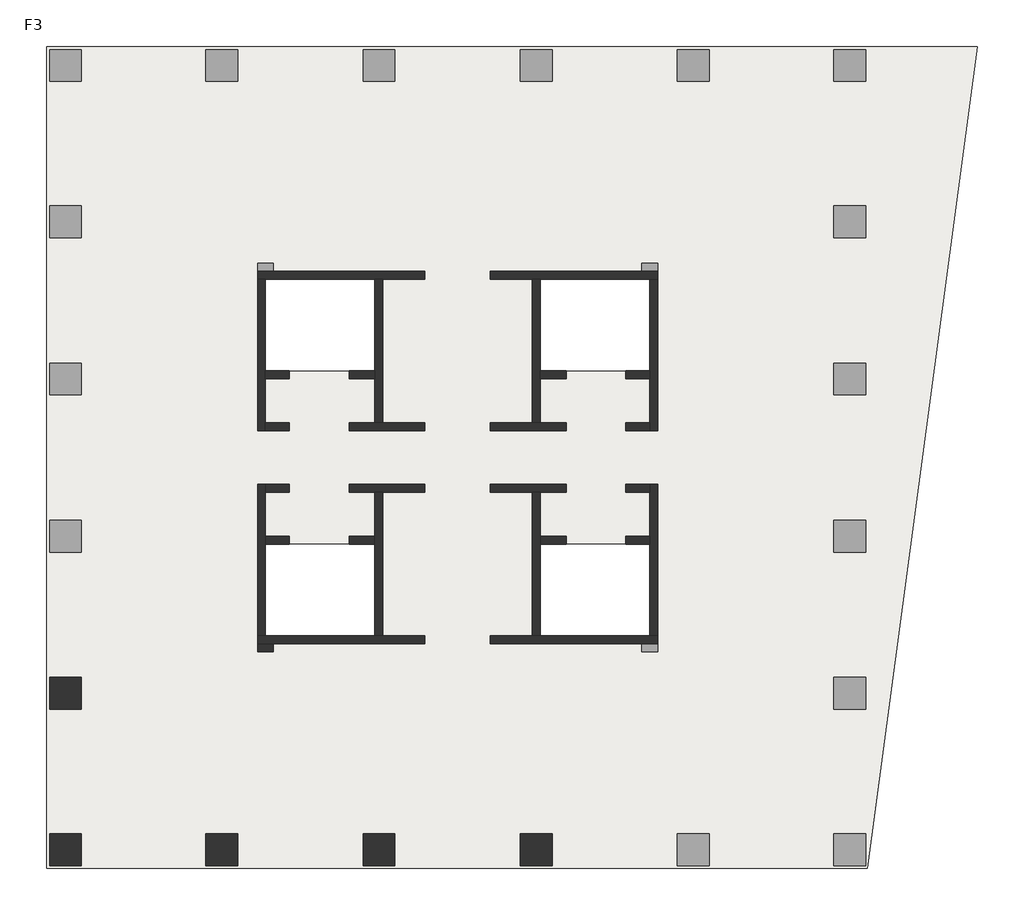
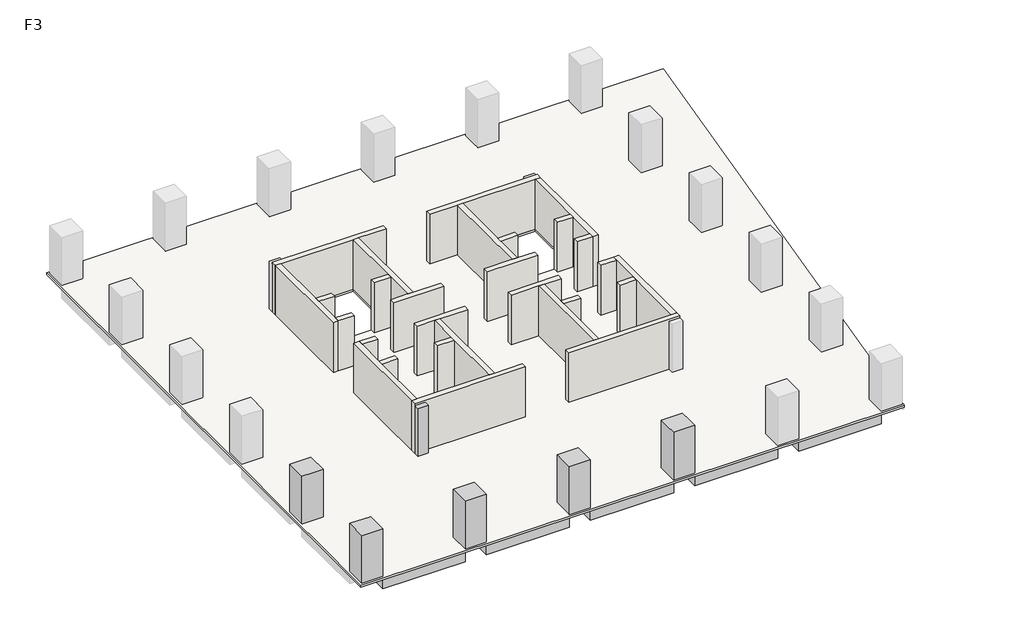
# One storey, part 1 of 2: 28 walls, 6 columns, 5 beams, 1 slab.
"""IFC4 building model written with IfcOpenShell, lengths in millimetres."""

from ifc_helpers import new_model, si_unit, frame, origin, place, context, project, spatial, polyline, outline, extrude, faceted_brep, element, save

model = new_model("IFC4")

# Units and contexts
model_context = context("Model", 3, world=origin())
ifc_project = project(units=[si_unit("LENGTHUNIT", "METRE", prefix="MILLI")], contexts=[model_context])

# Site, building, storey
site = spatial("IfcSite", under=ifc_project)
building = spatial("IfcBuilding", under=site)
storey = spatial("IfcBuildingStorey", under=building, Name="F3", Elevation=12000.0)

# Beams
placement = place(None, origin())
element("IfcBeam", 1, ObjectType="混凝土 - 矩形梁 : KL(5)-800x1000", at=placement, inside=storey, context=model_context, shape_type="SweptSolid", body=[
    extrude(outline(polyline([(-12472.6742169, -13948.9501342), (-12472.6742169, -13148.9501342), (-6222.6742169, -13148.9501342), (-6222.6742169, -13948.9501342), (-12472.6742169, -13948.9501342)])), frame((0.0, 0.0, 11000.0), z_axis=(0.0, 0.0, 1.0), x_axis=(1.0, 0.0, 0.0)), (0.0, 0.0, 1.0), 840.0),
    extrude(outline(polyline([(25327.3257831, -13148.9501342), (25327.3257831, -13948.9501342), (19077.3257831, -13948.9501342), (19077.3257831, -13148.9501342), (25327.3257831, -13148.9501342)])), frame((0.0, 0.0, 11000.0), z_axis=(0.0, 0.0, 1.0), x_axis=(1.0, 0.0, 0.0)), (0.0, 0.0, 1.0), 840.0),
    extrude(outline(polyline([(-4622.6742169, -13948.9501342), (-4622.6742169, -13148.9501342), (1677.3257831, -13148.9501342), (1677.3257831, -13948.9501342), (-4622.6742169, -13948.9501342)])), frame((0.0, 0.0, 11000.0), z_axis=(0.0, 0.0, 1.0), x_axis=(1.0, 0.0, 0.0)), (0.0, 0.0, 1.0), 840.0),
    extrude(outline(polyline([(3277.3257831, -13948.9501342), (3277.3257831, -13148.9501342), (9577.3257831, -13148.9501342), (9577.3257831, -13948.9501342), (3277.3257831, -13948.9501342)])), frame((0.0, 0.0, 11000.0), z_axis=(0.0, 0.0, 1.0), x_axis=(1.0, 0.0, 0.0)), (0.0, 0.0, 1.0), 840.0),
    extrude(outline(polyline([(11177.3257831, -13948.9501342), (11177.3257831, -13148.9501342), (17477.3257831, -13148.9501342), (17477.3257831, -13948.9501342), (11177.3257831, -13948.9501342)])), frame((0.0, 0.0, 11000.0), z_axis=(0.0, 0.0, 1.0), x_axis=(1.0, 0.0, 0.0)), (0.0, 0.0, 1.0), 840.0),
])
element("IfcBeam", 2, ObjectType="混凝土 - 矩形梁 : L1-800x500", at=placement, inside=storey, context=model_context, shape_type="Brep", body=[
    faceted_brep([(-12472.6742169, -5512.1353397, 11500.0), (-3746.9473979, -3341.556529, 11500.0), (-3173.6696907, -3198.9501342, 11500.0), (-3173.6696907, -3198.9501342, 11840.0), (-3746.9473979, -3341.556529, 11840.0), (-12472.6742169, -5512.1353397, 11840.0), (-3622.6742169, -3198.9501342, 11500.0), (-12472.6742169, -4687.7549784, 11500.0), (-3622.6742169, -2486.2624411, 11500.0), (-3622.6742169, -2798.9501342, 11500.0), (-12472.6742169, -4687.7549784, 11840.0), (-3622.6742169, -2486.2624411, 11840.0), (-3622.6742169, -3198.9501342, 11840.0)], [[[0, 1, 2, 3, 4, 5]], [[6, 2, 1, 0, 7, 8, 9]], [[8, 7, 10, 11]], [[2, 6, 12, 3]], [[9, 8, 11, 12, 6]], [[7, 0, 5, 10]], [[5, 4, 3, 12, 11, 10]]]),
])
element("IfcBeam", 3, ObjectType="混凝土 - 矩形梁 : L1-800x500", at=placement, inside=storey, context=model_context, shape_type="SweptSolid", body=[
    extrude(outline(polyline([(-3746.9473979, -3341.556529), (-3173.6696907, -3198.9501342), (-2898.7618154, -3198.9501342), (-4843.6893517, -12348.9501342), (-5661.5624638, -12348.9501342), (-3746.9473979, -3341.556529)])), frame((0.0, 0.0, 11500.0), z_axis=(0.0, 0.0, 1.0), x_axis=(1.0, 0.0, 0.0)), (0.0, 0.0, 1.0), 340.0),
])
element("IfcBeam", 4, ObjectType="混凝土 - 矩形梁 : L1-800x500", at=placement, inside=storey, context=model_context, shape_type="SweptSolid", body=[
    extrude(outline(polyline([(2877.3257831, -12348.9501342), (2077.3257831, -12348.9501342), (2077.3257831, -2798.9501342), (2877.3257831, -2798.9501342), (2877.3257831, -12348.9501342)])), frame((0.0, 0.0, 11500.0), z_axis=(0.0, 0.0, 1.0), x_axis=(1.0, 0.0, 0.0)), (0.0, 0.0, 1.0), 340.0),
])
element("IfcBeam", 5, ObjectType="混凝土 - 矩形梁 : L1-800x500", at=placement, inside=storey, context=model_context, shape_type="SweptSolid", body=[
    extrude(outline(polyline([(10777.3257831, -12348.9501342), (9977.3257831, -12348.9501342), (9977.3257831, -2798.9501342), (10777.3257831, -2798.9501342), (10777.3257831, -12348.9501342)])), frame((0.0, 0.0, 11500.0), z_axis=(0.0, 0.0, 1.0), x_axis=(1.0, 0.0, 0.0)), (0.0, 0.0, 1.0), 340.0),
])

# Columns
element("IfcColumn", 6, ObjectType="混凝土 - 矩形 - 柱 : Z1-1600x1600", at=placement, inside=storey, context=model_context, shape_type="Brep", body=[
    faceted_brep([(-12472.6742169, -4498.9501342, 12000.0), (-12472.6742169, -6098.9501342, 12000.0), (-14072.6742169, -6098.9501342, 12000.0), (-14072.6742169, -4498.9501342, 12000.0), (-12472.6742169, -4498.9501342, 15840.0), (-12472.6742169, -6098.9501342, 15840.0), (-13272.6742169, -6098.9501342, 15840.0), (-14072.6742169, -6098.9501342, 15840.0), (-14072.6742169, -6098.9501342, 15000.0), (-14072.6742169, -4498.9501342, 15840.0), (-14072.6742169, -4498.9501342, 15000.0), (-13272.6742169, -4498.9501342, 15840.0)], [[[0, 1, 2, 3]], [[1, 0, 4, 5]], [[2, 1, 5, 6, 7, 8]], [[3, 2, 8, 7, 9, 10]], [[0, 3, 10, 9, 11, 4]], [[5, 4, 11, 9, 7, 6]]]),
])
element("IfcColumn", 7, ObjectType="混凝土 - 矩形 - 柱 : Z1-1600x1600", at=placement, inside=storey, context=model_context, shape_type="SweptSolid", body=[
    extrude(outline(polyline([(-12472.6742169, -12348.9501342), (-12472.6742169, -13948.9501342), (-14072.6742169, -13948.9501342), (-14072.6742169, -12348.9501342), (-12472.6742169, -12348.9501342)])), frame((0.0, 0.0, 12000.0), z_axis=(0.0, 0.0, 1.0), x_axis=(1.0, 0.0, 0.0)), (0.0, 0.0, 1.0), 3840.0),
])
element("IfcColumn", 8, ObjectType="混凝土 - 矩形 - 柱 : Z1-1600x1600", at=placement, inside=storey, context=model_context, shape_type="Brep", body=[
    faceted_brep([(-4622.6742169, -12348.9501342, 12000.0), (-4622.6742169, -13948.9501342, 12000.0), (-6222.6742169, -13948.9501342, 12000.0), (-6222.6742169, -12348.9501342, 12000.0), (-4622.6742169, -12348.9501342, 15840.0), (-4622.6742169, -13148.9501342, 15840.0), (-4622.6742169, -13948.9501342, 15840.0), (-4622.6742169, -13948.9501342, 15000.0), (-6222.6742169, -13948.9501342, 15840.0), (-6222.6742169, -13948.9501342, 15000.0), (-6222.6742169, -13148.9501342, 15840.0), (-6222.6742169, -12348.9501342, 15840.0)], [[[0, 1, 2, 3]], [[1, 0, 4, 5, 6, 7]], [[2, 1, 7, 6, 8, 9]], [[3, 2, 9, 8, 10, 11]], [[0, 3, 11, 4]], [[6, 5, 4, 11, 10, 8]]]),
])
element("IfcColumn", 9, ObjectType="混凝土 - 矩形 - 柱 : Z1-1600x1600", at=placement, inside=storey, context=model_context, shape_type="Brep", body=[
    faceted_brep([(3277.3257831, -12348.9501342, 12000.0), (3277.3257831, -13948.9501342, 12000.0), (1677.3257831, -13948.9501342, 12000.0), (1677.3257831, -12348.9501342, 12000.0), (3277.3257831, -12348.9501342, 15840.0), (3277.3257831, -13148.9501342, 15840.0), (3277.3257831, -13948.9501342, 15840.0), (3277.3257831, -13948.9501342, 15000.0), (1677.3257831, -13948.9501342, 15840.0), (1677.3257831, -13948.9501342, 15000.0), (1677.3257831, -13148.9501342, 15840.0), (1677.3257831, -12348.9501342, 15840.0)], [[[0, 1, 2, 3]], [[1, 0, 4, 5, 6, 7]], [[2, 1, 7, 6, 8, 9]], [[3, 2, 9, 8, 10, 11]], [[0, 3, 11, 4]], [[6, 5, 4, 11, 10, 8]]]),
])
element("IfcColumn", 10, ObjectType="混凝土 - 矩形 - 柱 : Z1-1600x1600", at=placement, inside=storey, context=model_context, shape_type="Brep", body=[
    faceted_brep([(11177.3257831, -12348.9501342, 12000.0), (11177.3257831, -13948.9501342, 12000.0), (9577.3257831, -13948.9501342, 12000.0), (9577.3257831, -12348.9501342, 12000.0), (11177.3257831, -12348.9501342, 15840.0), (11177.3257831, -13148.9501342, 15840.0), (11177.3257831, -13948.9501342, 15840.0), (11177.3257831, -13948.9501342, 15000.0), (9577.3257831, -13948.9501342, 15840.0), (9577.3257831, -13948.9501342, 15000.0), (9577.3257831, -13148.9501342, 15840.0), (9577.3257831, -12348.9501342, 15840.0)], [[[0, 1, 2, 3]], [[1, 0, 4, 5, 6, 7]], [[2, 1, 7, 6, 8, 9]], [[3, 2, 9, 8, 10, 11]], [[0, 3, 11, 4]], [[6, 5, 4, 11, 10, 8]]]),
])
element("IfcColumn", 11, ObjectType="混凝土 - 矩形 - 柱 : Z2-800x800", at=placement, inside=storey, context=model_context, shape_type="SweptSolid", body=[
    extrude(outline(polyline([(-2822.6742169, -3198.9501342), (-3622.6742169, -3198.9501342), (-3622.6742169, -2798.9501342), (-2822.6742169, -2798.9501342), (-2822.6742169, -3198.9501342)])), frame((0.0, 0.0, 12000.0), z_axis=(0.0, 0.0, 1.0), x_axis=(1.0, 0.0, 0.0)), (0.0, 0.0, 1.0), 3840.0),
])

# Slab
element("IfcSlab", 12, ObjectType="LB-160", at=placement, inside=storey, context=model_context, shape_type="Brep", body=[
    faceted_brep([(32549.4477343, 27201.0498658, 11840.0), (32422.0087099, 26251.0498658, 11840.0), (27029.3257831, -13948.9501342, 11840.0), (27011.0393465, -14085.2672073, 11840.0), (-14222.6742169, -14085.2672073, 11840.0), (-14222.6742169, 27201.0498658, 11840.0), (2277.3257831, 15501.0498658, 11840.0), (-3222.6742169, 15501.0498658, 11840.0), (-3222.6742169, 10901.0498658, 11840.0), (2277.3257831, 10901.0498658, 11840.0), (2277.3257831, 2201.0498658, 11840.0), (-3222.6742169, 2201.0498658, 11840.0), (-3222.6742169, -2398.9501342, 11840.0), (2277.3257831, -2398.9501342, 11840.0), (16077.3257831, 2201.0498658, 11840.0), (10577.3257831, 2201.0498658, 11840.0), (10577.3257831, -2398.9501342, 11840.0), (16077.3257831, -2398.9501342, 11840.0), (16077.3257831, 15501.0498658, 11840.0), (10577.3257831, 15501.0498658, 11840.0), (10577.3257831, 10901.0498658, 11840.0), (16077.3257831, 10901.0498658, 11840.0), (32549.4477343, 27201.0498658, 12000.0), (-14222.6742169, 27201.0498658, 12000.0), (-14222.6742169, -14085.2672073, 12000.0), (27011.0393465, -14085.2672073, 12000.0), (2277.3257831, 15501.0498658, 12000.0), (2277.3257831, 10901.0498658, 12000.0), (-3222.6742169, 10901.0498658, 12000.0), (-3222.6742169, 15501.0498658, 12000.0), (2277.3257831, 2201.0498658, 12000.0), (2277.3257831, -2398.9501342, 12000.0), (-3222.6742169, -2398.9501342, 12000.0), (-3222.6742169, 2201.0498658, 12000.0), (16077.3257831, 2201.0498658, 12000.0), (16077.3257831, -2398.9501342, 12000.0), (10577.3257831, -2398.9501342, 12000.0), (10577.3257831, 2201.0498658, 12000.0), (16077.3257831, 15501.0498658, 12000.0), (16077.3257831, 10901.0498658, 12000.0), (10577.3257831, 10901.0498658, 12000.0), (10577.3257831, 15501.0498658, 12000.0)], [[[0, 1, 2, 3, 4, 5], [6, 7, 8, 9], [10, 11, 12, 13], [14, 15, 16, 17], [18, 19, 20, 21]], [[22, 23, 24, 25], [26, 27, 28, 29], [30, 31, 32, 33], [34, 35, 36, 37], [38, 39, 40, 41]], [[3, 2, 1, 0, 22, 25]], [[4, 3, 25, 24]], [[5, 4, 24, 23]], [[0, 5, 23, 22]], [[7, 6, 26, 29]], [[8, 7, 29, 28]], [[9, 8, 28, 27]], [[6, 9, 27, 26]], [[11, 10, 30, 33]], [[12, 11, 33, 32]], [[13, 12, 32, 31]], [[10, 13, 31, 30]], [[15, 14, 34, 37]], [[16, 15, 37, 36]], [[17, 16, 36, 35]], [[14, 17, 35, 34]], [[19, 18, 38, 41]], [[20, 19, 41, 40]], [[21, 20, 40, 39]], [[18, 21, 39, 38]]]),
])

# Walls
element("IfcWall", 13, ObjectType="剪力墙-400", at=placement, inside=storey, context=model_context, shape_type="Brep", body=[
    faceted_brep([(-3622.6742169, 15501.0498658, 12000.0), (-3222.6742169, 15501.0498658, 12000.0), (2277.3257831, 15501.0498658, 12000.0), (2677.3257831, 15501.0498658, 12000.0), (4777.3257831, 15501.0498658, 12000.0), (4777.3257831, 15501.0498658, 16000.0), (2677.3257831, 15501.0498658, 16000.0), (2277.3257831, 15501.0498658, 16000.0), (-3222.6742169, 15501.0498658, 16000.0), (-3622.6742169, 15501.0498658, 16000.0), (-3622.6742169, 15901.0498658, 12000.0), (-3622.6742169, 15901.0498658, 15840.0), (-3622.6742169, 15901.0498658, 16000.0), (4777.3257831, 15901.0498658, 16000.0), (4777.3257831, 15901.0498658, 12000.0), (-2822.6742169, 15901.0498658, 12000.0)], [[[0, 1, 2, 3, 4, 5, 6, 7, 8, 9]], [[10, 11, 12, 13, 14, 15]], [[4, 3, 2, 1, 0, 10, 15, 14]], [[5, 4, 14, 13]], [[9, 8, 7, 6, 5, 13, 12]], [[0, 9, 12, 11, 10]]]),
])
element("IfcWall", 14, ObjectType="剪力墙-400", at=placement, inside=storey, context=model_context, shape_type="Brep", body=[
    faceted_brep([(2277.3257831, 15501.0498658, 12000.0), (2277.3257831, 10901.0498658, 12000.0), (2277.3257831, 10501.0498658, 12000.0), (2277.3257831, 8301.0498658, 12000.0), (2277.3257831, 8301.0498658, 16000.0), (2277.3257831, 10501.0498658, 16000.0), (2277.3257831, 10901.0498658, 16000.0), (2277.3257831, 15501.0498658, 16000.0), (2677.3257831, 15501.0498658, 12000.0), (2677.3257831, 15501.0498658, 16000.0), (2677.3257831, 8301.0498658, 16000.0), (2677.3257831, 8301.0498658, 12000.0)], [[[0, 1, 2, 3, 4, 5, 6, 7]], [[8, 9, 10, 11]], [[3, 2, 1, 0, 8, 11]], [[7, 6, 5, 4, 10, 9]], [[0, 7, 9, 8]], [[4, 3, 11, 10]]]),
])
element("IfcWall", 15, ObjectType="剪力墙-400", at=placement, inside=storey, context=model_context, shape_type="Brep", body=[
    faceted_brep([(-3622.6742169, 15501.0498658, 12000.0), (-3622.6742169, 7901.0498658, 12000.0), (-3622.6742169, 7901.0498658, 16000.0), (-3622.6742169, 15501.0498658, 16000.0), (-3222.6742169, 15501.0498658, 12000.0), (-3222.6742169, 15501.0498658, 16000.0), (-3222.6742169, 10901.0498658, 16000.0), (-3222.6742169, 10501.0498658, 16000.0), (-3222.6742169, 8301.0498658, 16000.0), (-3222.6742169, 7901.0498658, 16000.0), (-3222.6742169, 7901.0498658, 12000.0), (-3222.6742169, 8301.0498658, 12000.0), (-3222.6742169, 10501.0498658, 12000.0), (-3222.6742169, 10901.0498658, 12000.0)], [[[0, 1, 2, 3]], [[4, 5, 6, 7, 8, 9, 10, 11, 12, 13]], [[1, 0, 4, 13, 12, 11, 10]], [[3, 2, 9, 8, 7, 6, 5]], [[0, 3, 5, 4]], [[2, 1, 10, 9]]]),
])
element("IfcWall", 16, ObjectType="剪力墙-400", at=placement, inside=storey, context=model_context, shape_type="SweptSolid", body=[
    extrude(outline(polyline([(-2022.6742169, 7901.0498658), (-3222.6742169, 7901.0498658), (-3222.6742169, 8301.0498658), (-2022.6742169, 8301.0498658), (-2022.6742169, 7901.0498658)])), frame((0.0, 0.0, 12000.0), z_axis=(0.0, 0.0, 1.0), x_axis=(1.0, 0.0, 0.0)), (0.0, 0.0, 1.0), 4000.0),
])
element("IfcWall", 17, ObjectType="剪力墙-400", at=placement, inside=storey, context=model_context, shape_type="Brep", body=[
    faceted_brep([(977.3257831, 7901.0498658, 12000.0), (4777.3257831, 7901.0498658, 12000.0), (4777.3257831, 7901.0498658, 16000.0), (977.3257831, 7901.0498658, 16000.0), (977.3257831, 8301.0498658, 12000.0), (977.3257831, 8301.0498658, 16000.0), (2277.3257831, 8301.0498658, 16000.0), (2677.3257831, 8301.0498658, 16000.0), (4777.3257831, 8301.0498658, 16000.0), (4777.3257831, 8301.0498658, 12000.0), (2677.3257831, 8301.0498658, 12000.0), (2277.3257831, 8301.0498658, 12000.0)], [[[0, 1, 2, 3]], [[4, 5, 6, 7, 8, 9, 10, 11]], [[1, 0, 4, 11, 10, 9]], [[2, 1, 9, 8]], [[3, 2, 8, 7, 6, 5]], [[0, 3, 5, 4]]]),
])
element("IfcWall", 18, ObjectType="剪力墙-400", at=placement, inside=storey, context=model_context, shape_type="SweptSolid", body=[
    extrude(outline(polyline([(-2022.6742169, 10501.0498658), (-3222.6742169, 10501.0498658), (-3222.6742169, 10901.0498658), (-2022.6742169, 10901.0498658), (-2022.6742169, 10501.0498658)])), frame((0.0, 0.0, 12000.0), z_axis=(0.0, 0.0, 1.0), x_axis=(1.0, 0.0, 0.0)), (0.0, 0.0, 1.0), 4000.0),
])
element("IfcWall", 19, ObjectType="剪力墙-400", at=placement, inside=storey, context=model_context, shape_type="SweptSolid", body=[
    extrude(outline(polyline([(2277.3257831, 10501.0498658), (977.3257831, 10501.0498658), (977.3257831, 10901.0498658), (2277.3257831, 10901.0498658), (2277.3257831, 10501.0498658)])), frame((0.0, 0.0, 12000.0), z_axis=(0.0, 0.0, 1.0), x_axis=(1.0, 0.0, 0.0)), (0.0, 0.0, 1.0), 4000.0),
])
element("IfcWall", 20, ObjectType="剪力墙-400", at=placement, inside=storey, context=model_context, shape_type="Brep", body=[
    faceted_brep([(16477.3257831, 15901.0498658, 12000.0), (15677.3257831, 15901.0498658, 12000.0), (8077.3257831, 15901.0498658, 12000.0), (8077.3257831, 15901.0498658, 16000.0), (16477.3257831, 15901.0498658, 16000.0), (16477.3257831, 15901.0498658, 15840.0), (16477.3257831, 15501.0498658, 12000.0), (16477.3257831, 15501.0498658, 16000.0), (16077.3257831, 15501.0498658, 16000.0), (10577.3257831, 15501.0498658, 16000.0), (10177.3257831, 15501.0498658, 16000.0), (8077.3257831, 15501.0498658, 16000.0), (8077.3257831, 15501.0498658, 12000.0), (10177.3257831, 15501.0498658, 12000.0), (10577.3257831, 15501.0498658, 12000.0), (16077.3257831, 15501.0498658, 12000.0)], [[[0, 1, 2, 3, 4, 5]], [[6, 7, 8, 9, 10, 11, 12, 13, 14, 15]], [[2, 1, 0, 6, 15, 14, 13, 12]], [[3, 2, 12, 11]], [[4, 3, 11, 10, 9, 8, 7]], [[0, 5, 4, 7, 6]]]),
])
element("IfcWall", 21, ObjectType="剪力墙-400", at=placement, inside=storey, context=model_context, shape_type="Brep", body=[
    faceted_brep([(10177.3257831, 15501.0498658, 12000.0), (10177.3257831, 8301.0498658, 12000.0), (10177.3257831, 8301.0498658, 16000.0), (10177.3257831, 15501.0498658, 16000.0), (10577.3257831, 15501.0498658, 12000.0), (10577.3257831, 15501.0498658, 16000.0), (10577.3257831, 10901.0498658, 16000.0), (10577.3257831, 10501.0498658, 16000.0), (10577.3257831, 8301.0498658, 16000.0), (10577.3257831, 8301.0498658, 12000.0), (10577.3257831, 10501.0498658, 12000.0), (10577.3257831, 10901.0498658, 12000.0)], [[[0, 1, 2, 3]], [[4, 5, 6, 7, 8, 9, 10, 11]], [[1, 0, 4, 11, 10, 9]], [[3, 2, 8, 7, 6, 5]], [[0, 3, 5, 4]], [[2, 1, 9, 8]]]),
])
element("IfcWall", 22, ObjectType="剪力墙-400", at=placement, inside=storey, context=model_context, shape_type="Brep", body=[
    faceted_brep([(16077.3257831, 15501.0498658, 12000.0), (16077.3257831, 10901.0498658, 12000.0), (16077.3257831, 10501.0498658, 12000.0), (16077.3257831, 8301.0498658, 12000.0), (16077.3257831, 7901.0498658, 12000.0), (16077.3257831, 7901.0498658, 16000.0), (16077.3257831, 8301.0498658, 16000.0), (16077.3257831, 10501.0498658, 16000.0), (16077.3257831, 10901.0498658, 16000.0), (16077.3257831, 15501.0498658, 16000.0), (16477.3257831, 15501.0498658, 12000.0), (16477.3257831, 15501.0498658, 16000.0), (16477.3257831, 7901.0498658, 16000.0), (16477.3257831, 7901.0498658, 12000.0)], [[[0, 1, 2, 3, 4, 5, 6, 7, 8, 9]], [[10, 11, 12, 13]], [[4, 3, 2, 1, 0, 10, 13]], [[9, 8, 7, 6, 5, 12, 11]], [[0, 9, 11, 10]], [[5, 4, 13, 12]]]),
])
element("IfcWall", 23, ObjectType="剪力墙-400", at=placement, inside=storey, context=model_context, shape_type="SweptSolid", body=[
    extrude(outline(polyline([(14877.3257831, 8301.0498658), (16077.3257831, 8301.0498658), (16077.3257831, 7901.0498658), (14877.3257831, 7901.0498658), (14877.3257831, 8301.0498658)])), frame((0.0, 0.0, 12000.0), z_axis=(0.0, 0.0, 1.0), x_axis=(1.0, 0.0, 0.0)), (0.0, 0.0, 1.0), 4000.0),
])
element("IfcWall", 24, ObjectType="剪力墙-400", at=placement, inside=storey, context=model_context, shape_type="Brep", body=[
    faceted_brep([(11877.3257831, 8301.0498658, 12000.0), (10577.3257831, 8301.0498658, 12000.0), (10177.3257831, 8301.0498658, 12000.0), (8077.3257831, 8301.0498658, 12000.0), (8077.3257831, 8301.0498658, 16000.0), (10177.3257831, 8301.0498658, 16000.0), (10577.3257831, 8301.0498658, 16000.0), (11877.3257831, 8301.0498658, 16000.0), (11877.3257831, 7901.0498658, 12000.0), (11877.3257831, 7901.0498658, 16000.0), (8077.3257831, 7901.0498658, 16000.0), (8077.3257831, 7901.0498658, 12000.0)], [[[0, 1, 2, 3, 4, 5, 6, 7]], [[8, 9, 10, 11]], [[3, 2, 1, 0, 8, 11]], [[4, 3, 11, 10]], [[7, 6, 5, 4, 10, 9]], [[0, 7, 9, 8]]]),
])
element("IfcWall", 25, ObjectType="剪力墙-400", at=placement, inside=storey, context=model_context, shape_type="SweptSolid", body=[
    extrude(outline(polyline([(14877.3257831, 10901.0498658), (16077.3257831, 10901.0498658), (16077.3257831, 10501.0498658), (14877.3257831, 10501.0498658), (14877.3257831, 10901.0498658)])), frame((0.0, 0.0, 12000.0), z_axis=(0.0, 0.0, 1.0), x_axis=(1.0, 0.0, 0.0)), (0.0, 0.0, 1.0), 4000.0),
])
element("IfcWall", 26, ObjectType="剪力墙-400", at=placement, inside=storey, context=model_context, shape_type="SweptSolid", body=[
    extrude(outline(polyline([(10577.3257831, 10901.0498658), (11877.3257831, 10901.0498658), (11877.3257831, 10501.0498658), (10577.3257831, 10501.0498658), (10577.3257831, 10901.0498658)])), frame((0.0, 0.0, 12000.0), z_axis=(0.0, 0.0, 1.0), x_axis=(1.0, 0.0, 0.0)), (0.0, 0.0, 1.0), 4000.0),
])
element("IfcWall", 27, ObjectType="剪力墙-400", at=placement, inside=storey, context=model_context, shape_type="Brep", body=[
    faceted_brep([(-3622.6742169, -2798.9501342, 12000.0), (-2822.6742169, -2798.9501342, 12000.0), (4777.3257831, -2798.9501342, 12000.0), (4777.3257831, -2798.9501342, 16000.0), (-3622.6742169, -2798.9501342, 16000.0), (-3622.6742169, -2798.9501342, 15840.0), (-3622.6742169, -2398.9501342, 12000.0), (-3622.6742169, -2398.9501342, 16000.0), (-3222.6742169, -2398.9501342, 16000.0), (2277.3257831, -2398.9501342, 16000.0), (2677.3257831, -2398.9501342, 16000.0), (4777.3257831, -2398.9501342, 16000.0), (4777.3257831, -2398.9501342, 12000.0), (2677.3257831, -2398.9501342, 12000.0), (2277.3257831, -2398.9501342, 12000.0), (-3222.6742169, -2398.9501342, 12000.0)], [[[0, 1, 2, 3, 4, 5]], [[6, 7, 8, 9, 10, 11, 12, 13, 14, 15]], [[2, 1, 0, 6, 15, 14, 13, 12]], [[3, 2, 12, 11]], [[4, 3, 11, 10, 9, 8, 7]], [[0, 5, 4, 7, 6]]]),
])
element("IfcWall", 28, ObjectType="剪力墙-400", at=placement, inside=storey, context=model_context, shape_type="Brep", body=[
    faceted_brep([(2677.3257831, -2398.9501342, 12000.0), (2677.3257831, 4801.0498658, 12000.0), (2677.3257831, 4801.0498658, 16000.0), (2677.3257831, -2398.9501342, 16000.0), (2277.3257831, -2398.9501342, 12000.0), (2277.3257831, -2398.9501342, 16000.0), (2277.3257831, 2201.0498658, 16000.0), (2277.3257831, 2601.0498658, 16000.0), (2277.3257831, 4801.0498658, 16000.0), (2277.3257831, 4801.0498658, 12000.0), (2277.3257831, 2601.0498658, 12000.0), (2277.3257831, 2201.0498658, 12000.0)], [[[0, 1, 2, 3]], [[4, 5, 6, 7, 8, 9, 10, 11]], [[1, 0, 4, 11, 10, 9]], [[3, 2, 8, 7, 6, 5]], [[0, 3, 5, 4]], [[2, 1, 9, 8]]]),
])
element("IfcWall", 29, ObjectType="剪力墙-400", at=placement, inside=storey, context=model_context, shape_type="Brep", body=[
    faceted_brep([(-3222.6742169, -2398.9501342, 12000.0), (-3222.6742169, 2201.0498658, 12000.0), (-3222.6742169, 2601.0498658, 12000.0), (-3222.6742169, 4801.0498658, 12000.0), (-3222.6742169, 5201.0498658, 12000.0), (-3222.6742169, 5201.0498658, 16000.0), (-3222.6742169, 4801.0498658, 16000.0), (-3222.6742169, 2601.0498658, 16000.0), (-3222.6742169, 2201.0498658, 16000.0), (-3222.6742169, -2398.9501342, 16000.0), (-3622.6742169, -2398.9501342, 12000.0), (-3622.6742169, -2398.9501342, 16000.0), (-3622.6742169, 5201.0498658, 16000.0), (-3622.6742169, 5201.0498658, 12000.0)], [[[0, 1, 2, 3, 4, 5, 6, 7, 8, 9]], [[10, 11, 12, 13]], [[4, 3, 2, 1, 0, 10, 13]], [[9, 8, 7, 6, 5, 12, 11]], [[0, 9, 11, 10]], [[5, 4, 13, 12]]]),
])
element("IfcWall", 30, ObjectType="剪力墙-400", at=placement, inside=storey, context=model_context, shape_type="SweptSolid", body=[
    extrude(outline(polyline([(-2022.6742169, 4801.0498658), (-3222.6742169, 4801.0498658), (-3222.6742169, 5201.0498658), (-2022.6742169, 5201.0498658), (-2022.6742169, 4801.0498658)])), frame((0.0, 0.0, 12000.0), z_axis=(0.0, 0.0, 1.0), x_axis=(1.0, 0.0, 0.0)), (0.0, 0.0, 1.0), 4000.0),
])
element("IfcWall", 31, ObjectType="剪力墙-400", at=placement, inside=storey, context=model_context, shape_type="Brep", body=[
    faceted_brep([(977.3257831, 4801.0498658, 12000.0), (2277.3257831, 4801.0498658, 12000.0), (2677.3257831, 4801.0498658, 12000.0), (4777.3257831, 4801.0498658, 12000.0), (4777.3257831, 4801.0498658, 16000.0), (2677.3257831, 4801.0498658, 16000.0), (2277.3257831, 4801.0498658, 16000.0), (977.3257831, 4801.0498658, 16000.0), (977.3257831, 5201.0498658, 12000.0), (977.3257831, 5201.0498658, 16000.0), (4777.3257831, 5201.0498658, 16000.0), (4777.3257831, 5201.0498658, 12000.0)], [[[0, 1, 2, 3, 4, 5, 6, 7]], [[8, 9, 10, 11]], [[3, 2, 1, 0, 8, 11]], [[4, 3, 11, 10]], [[7, 6, 5, 4, 10, 9]], [[0, 7, 9, 8]]]),
])
element("IfcWall", 32, ObjectType="剪力墙-400", at=placement, inside=storey, context=model_context, shape_type="SweptSolid", body=[
    extrude(outline(polyline([(-2022.6742169, 2201.0498658), (-3222.6742169, 2201.0498658), (-3222.6742169, 2601.0498658), (-2022.6742169, 2601.0498658), (-2022.6742169, 2201.0498658)])), frame((0.0, 0.0, 12000.0), z_axis=(0.0, 0.0, 1.0), x_axis=(1.0, 0.0, 0.0)), (0.0, 0.0, 1.0), 4000.0),
])
element("IfcWall", 33, ObjectType="剪力墙-400", at=placement, inside=storey, context=model_context, shape_type="SweptSolid", body=[
    extrude(outline(polyline([(2277.3257831, 2201.0498658), (977.3257831, 2201.0498658), (977.3257831, 2601.0498658), (2277.3257831, 2601.0498658), (2277.3257831, 2201.0498658)])), frame((0.0, 0.0, 12000.0), z_axis=(0.0, 0.0, 1.0), x_axis=(1.0, 0.0, 0.0)), (0.0, 0.0, 1.0), 4000.0),
])
element("IfcWall", 34, ObjectType="剪力墙-400", at=placement, inside=storey, context=model_context, shape_type="Brep", body=[
    faceted_brep([(16477.3257831, -2398.9501342, 12000.0), (16077.3257831, -2398.9501342, 12000.0), (10577.3257831, -2398.9501342, 12000.0), (10177.3257831, -2398.9501342, 12000.0), (8077.3257831, -2398.9501342, 12000.0), (8077.3257831, -2398.9501342, 16000.0), (10177.3257831, -2398.9501342, 16000.0), (10577.3257831, -2398.9501342, 16000.0), (16077.3257831, -2398.9501342, 16000.0), (16477.3257831, -2398.9501342, 16000.0), (16477.3257831, -2798.9501342, 12000.0), (16477.3257831, -2798.9501342, 15840.0), (16477.3257831, -2798.9501342, 16000.0), (8077.3257831, -2798.9501342, 16000.0), (8077.3257831, -2798.9501342, 12000.0), (15677.3257831, -2798.9501342, 12000.0)], [[[0, 1, 2, 3, 4, 5, 6, 7, 8, 9]], [[10, 11, 12, 13, 14, 15]], [[4, 3, 2, 1, 0, 10, 15, 14]], [[5, 4, 14, 13]], [[9, 8, 7, 6, 5, 13, 12]], [[0, 9, 12, 11, 10]]]),
])
element("IfcWall", 35, ObjectType="剪力墙-400", at=placement, inside=storey, context=model_context, shape_type="Brep", body=[
    faceted_brep([(10577.3257831, -2398.9501342, 12000.0), (10577.3257831, 2201.0498658, 12000.0), (10577.3257831, 2601.0498658, 12000.0), (10577.3257831, 4801.0498658, 12000.0), (10577.3257831, 4801.0498658, 16000.0), (10577.3257831, 2601.0498658, 16000.0), (10577.3257831, 2201.0498658, 16000.0), (10577.3257831, -2398.9501342, 16000.0), (10177.3257831, -2398.9501342, 12000.0), (10177.3257831, -2398.9501342, 16000.0), (10177.3257831, 4801.0498658, 16000.0), (10177.3257831, 4801.0498658, 12000.0)], [[[0, 1, 2, 3, 4, 5, 6, 7]], [[8, 9, 10, 11]], [[3, 2, 1, 0, 8, 11]], [[7, 6, 5, 4, 10, 9]], [[0, 7, 9, 8]], [[4, 3, 11, 10]]]),
])
element("IfcWall", 36, ObjectType="剪力墙-400", at=placement, inside=storey, context=model_context, shape_type="Brep", body=[
    faceted_brep([(16477.3257831, -2398.9501342, 12000.0), (16477.3257831, 5201.0498658, 12000.0), (16477.3257831, 5201.0498658, 16000.0), (16477.3257831, -2398.9501342, 16000.0), (16077.3257831, -2398.9501342, 12000.0), (16077.3257831, -2398.9501342, 16000.0), (16077.3257831, 2201.0498658, 16000.0), (16077.3257831, 2601.0498658, 16000.0), (16077.3257831, 4801.0498658, 16000.0), (16077.3257831, 5201.0498658, 16000.0), (16077.3257831, 5201.0498658, 12000.0), (16077.3257831, 4801.0498658, 12000.0), (16077.3257831, 2601.0498658, 12000.0), (16077.3257831, 2201.0498658, 12000.0)], [[[0, 1, 2, 3]], [[4, 5, 6, 7, 8, 9, 10, 11, 12, 13]], [[1, 0, 4, 13, 12, 11, 10]], [[3, 2, 9, 8, 7, 6, 5]], [[0, 3, 5, 4]], [[2, 1, 10, 9]]]),
])
element("IfcWall", 37, ObjectType="剪力墙-400", at=placement, inside=storey, context=model_context, shape_type="SweptSolid", body=[
    extrude(outline(polyline([(14877.3257831, 5201.0498658), (16077.3257831, 5201.0498658), (16077.3257831, 4801.0498658), (14877.3257831, 4801.0498658), (14877.3257831, 5201.0498658)])), frame((0.0, 0.0, 12000.0), z_axis=(0.0, 0.0, 1.0), x_axis=(1.0, 0.0, 0.0)), (0.0, 0.0, 1.0), 4000.0),
])
element("IfcWall", 38, ObjectType="剪力墙-400", at=placement, inside=storey, context=model_context, shape_type="Brep", body=[
    faceted_brep([(11877.3257831, 5201.0498658, 12000.0), (8077.3257831, 5201.0498658, 12000.0), (8077.3257831, 5201.0498658, 16000.0), (11877.3257831, 5201.0498658, 16000.0), (11877.3257831, 4801.0498658, 12000.0), (11877.3257831, 4801.0498658, 16000.0), (10577.3257831, 4801.0498658, 16000.0), (10177.3257831, 4801.0498658, 16000.0), (8077.3257831, 4801.0498658, 16000.0), (8077.3257831, 4801.0498658, 12000.0), (10177.3257831, 4801.0498658, 12000.0), (10577.3257831, 4801.0498658, 12000.0)], [[[0, 1, 2, 3]], [[4, 5, 6, 7, 8, 9, 10, 11]], [[1, 0, 4, 11, 10, 9]], [[2, 1, 9, 8]], [[3, 2, 8, 7, 6, 5]], [[0, 3, 5, 4]]]),
])
element("IfcWall", 39, ObjectType="剪力墙-400", at=placement, inside=storey, context=model_context, shape_type="SweptSolid", body=[
    extrude(outline(polyline([(14877.3257831, 2601.0498658), (16077.3257831, 2601.0498658), (16077.3257831, 2201.0498658), (14877.3257831, 2201.0498658), (14877.3257831, 2601.0498658)])), frame((0.0, 0.0, 12000.0), z_axis=(0.0, 0.0, 1.0), x_axis=(1.0, 0.0, 0.0)), (0.0, 0.0, 1.0), 4000.0),
])
element("IfcWall", 40, ObjectType="剪力墙-400", at=placement, inside=storey, context=model_context, shape_type="SweptSolid", body=[
    extrude(outline(polyline([(10577.3257831, 2601.0498658), (11877.3257831, 2601.0498658), (11877.3257831, 2201.0498658), (10577.3257831, 2201.0498658), (10577.3257831, 2601.0498658)])), frame((0.0, 0.0, 12000.0), z_axis=(0.0, 0.0, 1.0), x_axis=(1.0, 0.0, 0.0)), (0.0, 0.0, 1.0), 4000.0),
])

save(model, "model.ifc")
